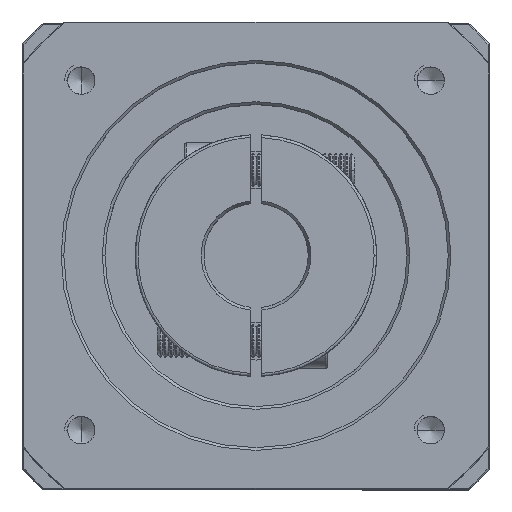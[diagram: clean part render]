
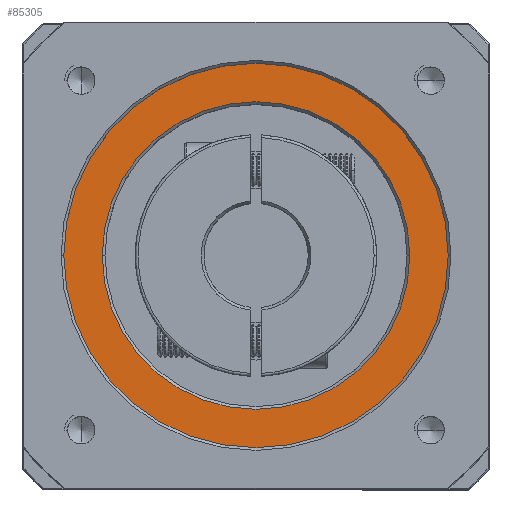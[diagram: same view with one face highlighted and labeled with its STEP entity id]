
A CAD part, top view. The second image highlights one B-rep face of the part: STEP entity #85305.
In plain terms, the highlighted planar face has unit normal (0, 0, 1).
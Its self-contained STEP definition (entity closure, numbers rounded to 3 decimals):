
#355 = EDGE_LOOP ( 'NONE', ( #54921, #20414 ) ) ;
#2508 = DIRECTION ( 'NONE',  ( 1., 0., 0. ) ) ;
#7286 = VERTEX_POINT ( 'NONE', #37787 ) ;
#7692 = AXIS2_PLACEMENT_3D ( 'NONE', #100300, #51776, #2508 ) ;
#11854 = DIRECTION ( 'NONE',  ( 0., 0., -1. ) ) ;
#13612 = FACE_OUTER_BOUND ( 'NONE', #50741, .T. ) ;
#15702 = CARTESIAN_POINT ( 'NONE',  ( -64.814, 19.007, 12.467 ) ) ;
#15988 = CARTESIAN_POINT ( 'NONE',  ( -92.814, 19.007, 12.467 ) ) ;
#18930 = CIRCLE ( 'NONE', #7692, 35. ) ;
#20414 = ORIENTED_EDGE ( 'NONE', *, *, #22266, .T. ) ;
#22266 = EDGE_CURVE ( 'NONE', #81688, #88683, #42858, .T. ) ;
#24316 = DIRECTION ( 'NONE',  ( 1., 0., 0. ) ) ;
#27334 = CARTESIAN_POINT ( 'NONE',  ( -127.814, 19.007, 12.467 ) ) ;
#28679 = CARTESIAN_POINT ( 'NONE',  ( -92.814, 19.007, 12.467 ) ) ;
#31773 = DIRECTION ( 'NONE',  ( 0., 0., 1. ) ) ;
#36959 = DIRECTION ( 'NONE',  ( 1., 0., 0. ) ) ;
#37787 = CARTESIAN_POINT ( 'NONE',  ( -57.814, 19.007, 12.467 ) ) ;
#42858 = CIRCLE ( 'NONE', #78861, 28. ) ;
#46429 = CIRCLE ( 'NONE', #68797, 28. ) ;
#47850 = PLANE ( 'NONE',  #51687 ) ;
#50741 = EDGE_LOOP ( 'NONE', ( #81439, #77647 ) ) ;
#51687 = AXIS2_PLACEMENT_3D ( 'NONE', #80424, #31773, #88578 ) ;
#51776 = DIRECTION ( 'NONE',  ( 0., 0., 1. ) ) ;
#54408 = EDGE_CURVE ( 'NONE', #88683, #81688, #46429, .T. ) ;
#54921 = ORIENTED_EDGE ( 'NONE', *, *, #54408, .T. ) ;
#56303 = CARTESIAN_POINT ( 'NONE',  ( -120.814, 19.007, 12.467 ) ) ;
#59090 = EDGE_CURVE ( 'NONE', #99037, #7286, #92944, .T. ) ;
#60979 = CARTESIAN_POINT ( 'NONE',  ( -92.814, 19.007, 12.467 ) ) ;
#68797 = AXIS2_PLACEMENT_3D ( 'NONE', #15988, #73076, #24316 ) ;
#69112 = DIRECTION ( 'NONE',  ( 1., 0., 0. ) ) ;
#73076 = DIRECTION ( 'NONE',  ( 0., 0., -1. ) ) ;
#77647 = ORIENTED_EDGE ( 'NONE', *, *, #59090, .T. ) ;
#78861 = AXIS2_PLACEMENT_3D ( 'NONE', #60979, #11854, #69112 ) ;
#79051 = EDGE_CURVE ( 'NONE', #7286, #99037, #18930, .T. ) ;
#80424 = CARTESIAN_POINT ( 'NONE',  ( -92.814, 19.007, 12.467 ) ) ;
#81439 = ORIENTED_EDGE ( 'NONE', *, *, #79051, .T. ) ;
#81688 = VERTEX_POINT ( 'NONE', #56303 ) ;
#85305 = ADVANCED_FACE ( 'NONE', ( #13612, #97838 ), #47850, .T. ) ;
#85505 = DIRECTION ( 'NONE',  ( 0., 0., 1. ) ) ;
#88578 = DIRECTION ( 'NONE',  ( 1., 0., 0. ) ) ;
#88683 = VERTEX_POINT ( 'NONE', #15702 ) ;
#92944 = CIRCLE ( 'NONE', #105358, 35. ) ;
#97838 = FACE_BOUND ( 'NONE', #355, .T. ) ;
#99037 = VERTEX_POINT ( 'NONE', #27334 ) ;
#100300 = CARTESIAN_POINT ( 'NONE',  ( -92.814, 19.007, 12.467 ) ) ;
#105358 = AXIS2_PLACEMENT_3D ( 'NONE', #28679, #85505, #36959 ) ;
